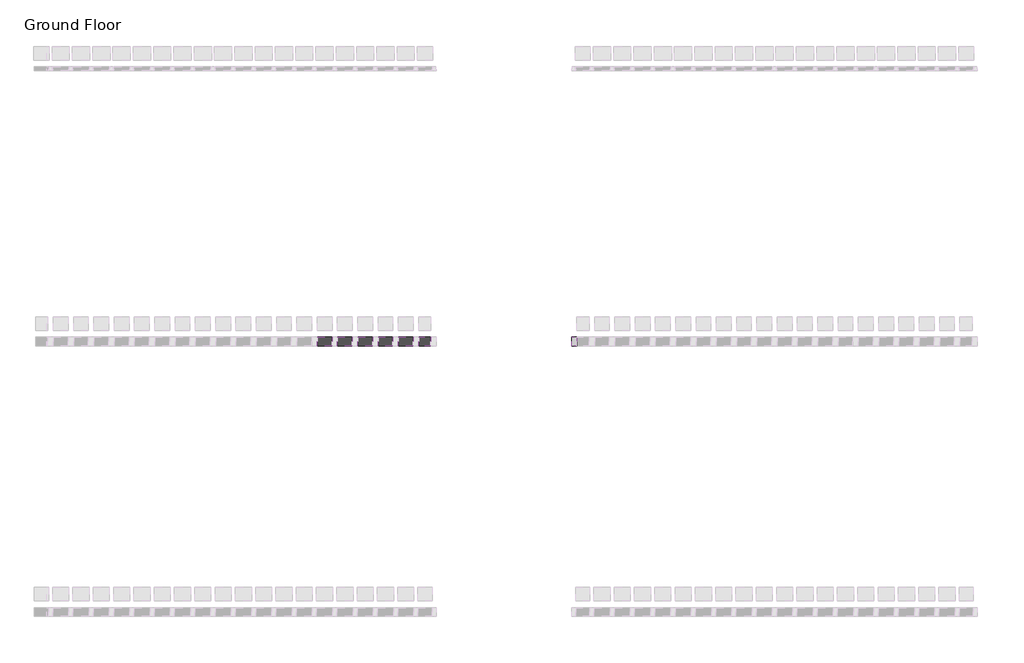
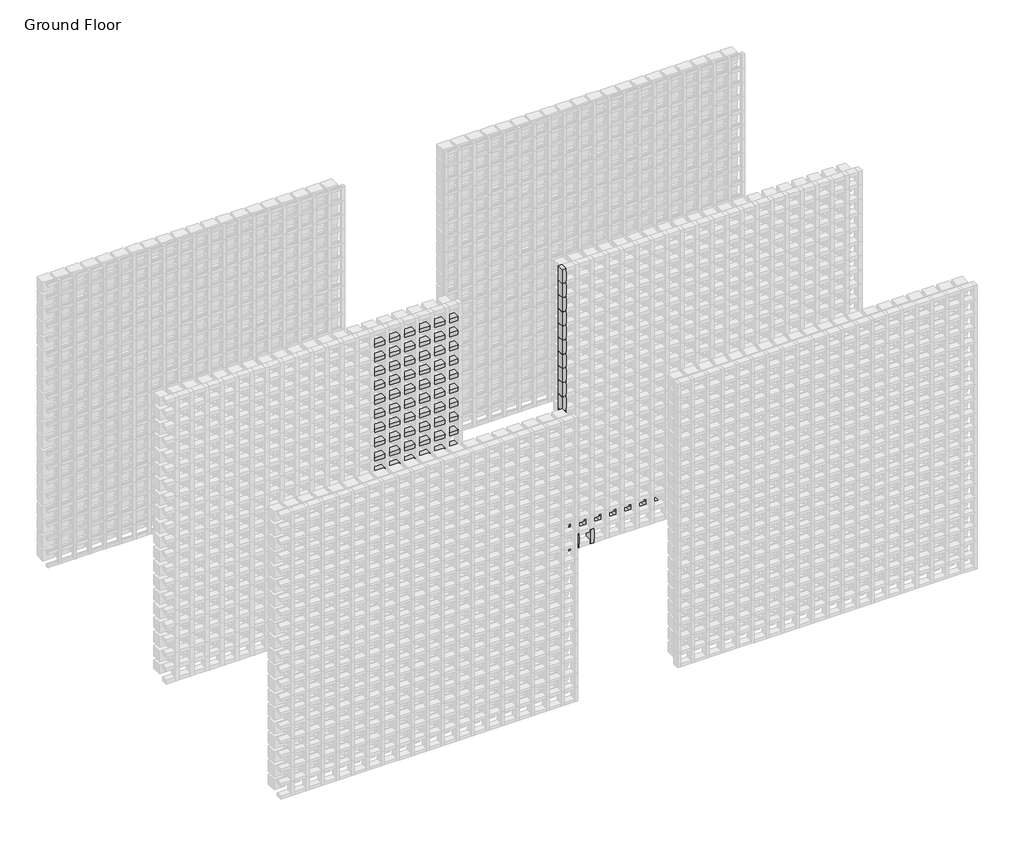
# One storey, part 143 of 350: 136 members, 7 plates.
"""IFC4 building model written with IfcOpenShell, lengths in millimetres."""

from ifc_helpers import new_model, si_unit, origin, place, context, project, spatial, transform, mapped, element, save
from components import rectangular_mullion_0b6a8654, rectangular_mullion_97e353d0, rectangular_mullion_655930e9, rectangular_mullion_141bfd94, rectangular_mullion_948b1c1d, empty_system_panel_empty_e4510abc, empty_system_panel_empty_1faefc6a

model = new_model("IFC4")

# Units and contexts
model_context = context("Model", 3, world=origin())
ifc_project = project(units=[si_unit("LENGTHUNIT", "METRE", prefix="MILLI")], contexts=[model_context])

# Site, building, storey
site = spatial("IfcSite", under=ifc_project)
building = spatial("IfcBuilding", under=site)
storey = spatial("IfcBuildingStorey", under=building, Name="Ground Floor", Elevation=0.0)

# Members
placement = place(None, origin())
rectangular_mullion_shape = rectangular_mullion_0b6a8654(model_context)
element("IfcMember", 1, ObjectType="Rectangular Mullion : Batten_Timber_Modinex_Austratus_Grid_Fascia_40x65_Hemlock", at=placement, inside=storey, context=model_context, shape_type="MappedRepresentation", body=[
    mapped(rectangular_mullion_shape, transform((12876.4361639, 40968.2978302, 150.0), x_axis=(0.0, 0.0, 1.0), y_axis=(0.0, -1.0, 0.0), z_axis=(1.0, 0.0, 0.0))),
])
element("IfcMember", 2, ObjectType="Rectangular Mullion : Batten_Timber_Modinex_Austratus_Grid_Fascia_40x65_Hemlock", at=placement, inside=storey, context=model_context, shape_type="MappedRepresentation", body=[
    mapped(rectangular_mullion_shape, transform((12876.4361639, 40968.2978302, 300.0), x_axis=(0.0, 0.0, 1.0), y_axis=(0.0, -1.0, 0.0), z_axis=(1.0, 0.0, 0.0))),
])
element("IfcMember", 3, ObjectType="Rectangular Mullion : Batten_Timber_Modinex_Austratus_Grid_Fascia_40x65_Hemlock", at=placement, inside=storey, context=model_context, shape_type="MappedRepresentation", body=[
    mapped(rectangular_mullion_shape, transform((12876.4361639, 40968.2978302, 450.0), x_axis=(0.0, 0.0, 1.0), y_axis=(0.0, -1.0, 0.0), z_axis=(1.0, 0.0, 0.0))),
])
element("IfcMember", 4, ObjectType="Rectangular Mullion : Batten_Timber_Modinex_Austratus_Grid_Fascia_40x65_Hemlock", at=placement, inside=storey, context=model_context, shape_type="MappedRepresentation", body=[
    mapped(rectangular_mullion_shape, transform((12876.4361639, 40968.2978302, 600.0), x_axis=(0.0, 0.0, 1.0), y_axis=(0.0, -1.0, 0.0), z_axis=(1.0, 0.0, 0.0))),
])
element("IfcMember", 5, ObjectType="Rectangular Mullion : Batten_Timber_Modinex_Austratus_Grid_Fascia_40x65_Hemlock", at=placement, inside=storey, context=model_context, shape_type="MappedRepresentation", body=[
    mapped(rectangular_mullion_shape, transform((12876.4361639, 40968.2978302, 750.0), x_axis=(0.0, 0.0, 1.0), y_axis=(0.0, -1.0, 0.0), z_axis=(1.0, 0.0, 0.0))),
])
element("IfcMember", 6, ObjectType="Rectangular Mullion : Batten_Timber_Modinex_Austratus_Grid_Fascia_40x65_Hemlock", at=placement, inside=storey, context=model_context, shape_type="MappedRepresentation", body=[
    mapped(rectangular_mullion_shape, transform((12876.4361639, 40968.2978302, 900.0), x_axis=(0.0, 0.0, 1.0), y_axis=(0.0, -1.0, 0.0), z_axis=(1.0, 0.0, 0.0))),
])
element("IfcMember", 7, ObjectType="Rectangular Mullion : Batten_Timber_Modinex_Austratus_Grid_Fascia_40x65_Hemlock", at=placement, inside=storey, context=model_context, shape_type="MappedRepresentation", body=[
    mapped(rectangular_mullion_shape, transform((12876.4361639, 40968.2978302, 1050.0), x_axis=(0.0, 0.0, 1.0), y_axis=(0.0, -1.0, 0.0), z_axis=(1.0, 0.0, 0.0))),
])
element("IfcMember", 8, ObjectType="Rectangular Mullion : Batten_Timber_Modinex_Austratus_Grid_Fascia_40x65_Hemlock", at=placement, inside=storey, context=model_context, shape_type="MappedRepresentation", body=[
    mapped(rectangular_mullion_shape, transform((12876.4361639, 40968.2978302, 1200.0), x_axis=(0.0, 0.0, 1.0), y_axis=(0.0, -1.0, 0.0), z_axis=(1.0, 0.0, 0.0))),
])
element("IfcMember", 9, ObjectType="Rectangular Mullion : Batten_Timber_Modinex_Austratus_Grid_Fascia_40x65_Hemlock", at=placement, inside=storey, context=model_context, shape_type="MappedRepresentation", body=[
    mapped(rectangular_mullion_shape, transform((12876.4361639, 40968.2978302, 1350.0), x_axis=(0.0, 0.0, 1.0), y_axis=(0.0, -1.0, 0.0), z_axis=(1.0, 0.0, 0.0))),
])
element("IfcMember", 10, ObjectType="Rectangular Mullion : Batten_Timber_Modinex_Austratus_Grid_Fascia_40x65_Hemlock", at=placement, inside=storey, context=model_context, shape_type="MappedRepresentation", body=[
    mapped(rectangular_mullion_shape, transform((12876.4361639, 40968.2978302, 1500.0), x_axis=(0.0, 0.0, 1.0), y_axis=(0.0, -1.0, 0.0), z_axis=(1.0, 0.0, 0.0))),
])
element("IfcMember", 11, ObjectType="Rectangular Mullion : Batten_Timber_Modinex_Austratus_Grid_Fascia_40x65_Hemlock", at=placement, inside=storey, context=model_context, shape_type="MappedRepresentation", body=[
    mapped(rectangular_mullion_shape, transform((12876.4361639, 40968.2978302, 1650.0), x_axis=(0.0, 0.0, 1.0), y_axis=(0.0, -1.0, 0.0), z_axis=(1.0, 0.0, 0.0))),
])
element("IfcMember", 12, ObjectType="Rectangular Mullion : Batten_Timber_Modinex_Austratus_Grid_Fascia_40x65_Hemlock", at=placement, inside=storey, context=model_context, shape_type="MappedRepresentation", body=[
    mapped(rectangular_mullion_shape, transform((12876.4361639, 40968.2978302, 1800.0), x_axis=(0.0, 0.0, 1.0), y_axis=(0.0, -1.0, 0.0), z_axis=(1.0, 0.0, 0.0))),
])
element("IfcMember", 13, ObjectType="Rectangular Mullion : Batten_Timber_Modinex_Austratus_Grid_Fascia_40x65_Hemlock", at=placement, inside=storey, context=model_context, shape_type="MappedRepresentation", body=[
    mapped(rectangular_mullion_shape, transform((12876.4361639, 40968.2978302, 1950.0), x_axis=(0.0, 0.0, 1.0), y_axis=(0.0, -1.0, 0.0), z_axis=(1.0, 0.0, 0.0))),
])
element("IfcMember", 14, ObjectType="Rectangular Mullion : Batten_Timber_Modinex_Austratus_Grid_Fascia_40x65_Hemlock", at=placement, inside=storey, context=model_context, shape_type="MappedRepresentation", body=[
    mapped(rectangular_mullion_shape, transform((12876.4361639, 40968.2978302, 2100.0), x_axis=(0.0, 0.0, 1.0), y_axis=(0.0, -1.0, 0.0), z_axis=(1.0, 0.0, 0.0))),
])
element("IfcMember", 15, ObjectType="Rectangular Mullion : Batten_Timber_Modinex_Austratus_Grid_Fascia_40x65_Hemlock", at=placement, inside=storey, context=model_context, shape_type="MappedRepresentation", body=[
    mapped(rectangular_mullion_shape, transform((12876.4361639, 40968.2978302, 2250.0), x_axis=(0.0, 0.0, 1.0), y_axis=(0.0, -1.0, 0.0), z_axis=(1.0, 0.0, 0.0))),
])
element("IfcMember", 16, ObjectType="Rectangular Mullion : Batten_Timber_Modinex_Austratus_Grid_Fascia_40x65_Hemlock", at=placement, inside=storey, context=model_context, shape_type="MappedRepresentation", body=[
    mapped(rectangular_mullion_shape, transform((12876.4361639, 40968.2978302, 2400.0), x_axis=(0.0, 0.0, 1.0), y_axis=(0.0, -1.0, 0.0), z_axis=(1.0, 0.0, 0.0))),
])
element("IfcMember", 17, ObjectType="Rectangular Mullion : Batten_Timber_Modinex_Austratus_Grid_Fascia_40x65_Hemlock", at=placement, inside=storey, context=model_context, shape_type="MappedRepresentation", body=[
    mapped(rectangular_mullion_shape, transform((12876.4361639, 40968.2978302, 2550.0), x_axis=(0.0, 0.0, 1.0), y_axis=(0.0, -1.0, 0.0), z_axis=(1.0, 0.0, 0.0))),
])
element("IfcMember", 18, ObjectType="Rectangular Mullion : Batten_Timber_Modinex_Austratus_Grid_Fascia_40x65_Hemlock", at=placement, inside=storey, context=model_context, shape_type="MappedRepresentation", body=[
    mapped(rectangular_mullion_shape, transform((12876.4361639, 40968.2978302, 2700.0), x_axis=(0.0, 0.0, 1.0), y_axis=(0.0, -1.0, 0.0), z_axis=(1.0, 0.0, 0.0))),
])
element("IfcMember", 19, ObjectType="Rectangular Mullion : Batten_Timber_Modinex_Austratus_Grid_Fascia_40x65_Hemlock", at=placement, inside=storey, context=model_context, shape_type="MappedRepresentation", body=[
    mapped(rectangular_mullion_shape, transform((12876.4361639, 40968.2978302, 2850.0), x_axis=(0.0, 0.0, 1.0), y_axis=(0.0, -1.0, 0.0), z_axis=(1.0, 0.0, 0.0))),
])
rectangular_mullion_2_shape = rectangular_mullion_97e353d0(model_context)
element("IfcMember", 20, ObjectType="Rectangular Mullion : Batten_Timber_Modinex_Austratus_Grid_Fascia_40x65_Hemlock", at=placement, inside=storey, context=model_context, shape_type="MappedRepresentation", body=[
    mapped(rectangular_mullion_2_shape, transform((12296.4361642, 40968.2978302, 150.0), x_axis=(0.0, 0.0, 1.0), y_axis=(0.0, -1.0, 0.0), z_axis=(1.0, 0.0, 0.0))),
])
element("IfcMember", 21, ObjectType="Rectangular Mullion : Batten_Timber_Modinex_Austratus_Grid_Fascia_40x65_Hemlock", at=placement, inside=storey, context=model_context, shape_type="MappedRepresentation", body=[
    mapped(rectangular_mullion_2_shape, transform((12446.4361642, 40968.2978302, 150.0), x_axis=(0.0, 0.0, 1.0), y_axis=(0.0, -1.0, 0.0), z_axis=(1.0, 0.0, 0.0))),
])
element("IfcMember", 22, ObjectType="Rectangular Mullion : Batten_Timber_Modinex_Austratus_Grid_Fascia_40x65_Hemlock", at=placement, inside=storey, context=model_context, shape_type="MappedRepresentation", body=[
    mapped(rectangular_mullion_2_shape, transform((12596.4361642, 40968.2978302, 150.0), x_axis=(0.0, 0.0, 1.0), y_axis=(0.0, -1.0, 0.0), z_axis=(1.0, 0.0, 0.0))),
])
element("IfcMember", 23, ObjectType="Rectangular Mullion : Batten_Timber_Modinex_Austratus_Grid_Fascia_40x65_Hemlock", at=placement, inside=storey, context=model_context, shape_type="MappedRepresentation", body=[
    mapped(rectangular_mullion_2_shape, transform((12746.4361642, 40968.2978302, 150.0), x_axis=(0.0, 0.0, 1.0), y_axis=(0.0, -1.0, 0.0), z_axis=(1.0, 0.0, 0.0))),
])
element("IfcMember", 24, ObjectType="Rectangular Mullion : Batten_Timber_Modinex_Austratus_Grid_Fascia_40x65_Hemlock", at=placement, inside=storey, context=model_context, shape_type="MappedRepresentation", body=[
    mapped(rectangular_mullion_2_shape, transform((12146.4361642, 40968.2978302, 300.0), x_axis=(0.0, 0.0, 1.0), y_axis=(0.0, -1.0, 0.0), z_axis=(1.0, 0.0, 0.0))),
])
element("IfcMember", 25, ObjectType="Rectangular Mullion : Batten_Timber_Modinex_Austratus_Grid_Fascia_40x65_Hemlock", at=placement, inside=storey, context=model_context, shape_type="MappedRepresentation", body=[
    mapped(rectangular_mullion_2_shape, transform((12296.4361642, 40968.2978302, 300.0), x_axis=(0.0, 0.0, 1.0), y_axis=(0.0, -1.0, 0.0), z_axis=(1.0, 0.0, 0.0))),
])
element("IfcMember", 26, ObjectType="Rectangular Mullion : Batten_Timber_Modinex_Austratus_Grid_Fascia_40x65_Hemlock", at=placement, inside=storey, context=model_context, shape_type="MappedRepresentation", body=[
    mapped(rectangular_mullion_2_shape, transform((12446.4361642, 40968.2978302, 300.0), x_axis=(0.0, 0.0, 1.0), y_axis=(0.0, -1.0, 0.0), z_axis=(1.0, 0.0, 0.0))),
])
element("IfcMember", 27, ObjectType="Rectangular Mullion : Batten_Timber_Modinex_Austratus_Grid_Fascia_40x65_Hemlock", at=placement, inside=storey, context=model_context, shape_type="MappedRepresentation", body=[
    mapped(rectangular_mullion_2_shape, transform((12596.4361642, 40968.2978302, 300.0), x_axis=(0.0, 0.0, 1.0), y_axis=(0.0, -1.0, 0.0), z_axis=(1.0, 0.0, 0.0))),
])
element("IfcMember", 28, ObjectType="Rectangular Mullion : Batten_Timber_Modinex_Austratus_Grid_Fascia_40x65_Hemlock", at=placement, inside=storey, context=model_context, shape_type="MappedRepresentation", body=[
    mapped(rectangular_mullion_2_shape, transform((12746.4361642, 40968.2978302, 300.0), x_axis=(0.0, 0.0, 1.0), y_axis=(0.0, -1.0, 0.0), z_axis=(1.0, 0.0, 0.0))),
])
element("IfcMember", 29, ObjectType="Rectangular Mullion : Batten_Timber_Modinex_Austratus_Grid_Fascia_40x65_Hemlock", at=placement, inside=storey, context=model_context, shape_type="MappedRepresentation", body=[
    mapped(rectangular_mullion_2_shape, transform((12146.4361642, 40968.2978302, 450.0), x_axis=(0.0, 0.0, 1.0), y_axis=(0.0, -1.0, 0.0), z_axis=(1.0, 0.0, 0.0))),
])
element("IfcMember", 30, ObjectType="Rectangular Mullion : Batten_Timber_Modinex_Austratus_Grid_Fascia_40x65_Hemlock", at=placement, inside=storey, context=model_context, shape_type="MappedRepresentation", body=[
    mapped(rectangular_mullion_2_shape, transform((12296.4361642, 40968.2978302, 450.0), x_axis=(0.0, 0.0, 1.0), y_axis=(0.0, -1.0, 0.0), z_axis=(1.0, 0.0, 0.0))),
])
element("IfcMember", 31, ObjectType="Rectangular Mullion : Batten_Timber_Modinex_Austratus_Grid_Fascia_40x65_Hemlock", at=placement, inside=storey, context=model_context, shape_type="MappedRepresentation", body=[
    mapped(rectangular_mullion_2_shape, transform((12446.4361642, 40968.2978302, 450.0), x_axis=(0.0, 0.0, 1.0), y_axis=(0.0, -1.0, 0.0), z_axis=(1.0, 0.0, 0.0))),
])
element("IfcMember", 32, ObjectType="Rectangular Mullion : Batten_Timber_Modinex_Austratus_Grid_Fascia_40x65_Hemlock", at=placement, inside=storey, context=model_context, shape_type="MappedRepresentation", body=[
    mapped(rectangular_mullion_2_shape, transform((12596.4361642, 40968.2978302, 450.0), x_axis=(0.0, 0.0, 1.0), y_axis=(0.0, -1.0, 0.0), z_axis=(1.0, 0.0, 0.0))),
])
element("IfcMember", 33, ObjectType="Rectangular Mullion : Batten_Timber_Modinex_Austratus_Grid_Fascia_40x65_Hemlock", at=placement, inside=storey, context=model_context, shape_type="MappedRepresentation", body=[
    mapped(rectangular_mullion_2_shape, transform((12746.4361642, 40968.2978302, 450.0), x_axis=(0.0, 0.0, 1.0), y_axis=(0.0, -1.0, 0.0), z_axis=(1.0, 0.0, 0.0))),
])
element("IfcMember", 34, ObjectType="Rectangular Mullion : Batten_Timber_Modinex_Austratus_Grid_Fascia_40x65_Hemlock", at=placement, inside=storey, context=model_context, shape_type="MappedRepresentation", body=[
    mapped(rectangular_mullion_2_shape, transform((12146.4361642, 40968.2978302, 600.0), x_axis=(0.0, 0.0, 1.0), y_axis=(0.0, -1.0, 0.0), z_axis=(1.0, 0.0, 0.0))),
])
element("IfcMember", 35, ObjectType="Rectangular Mullion : Batten_Timber_Modinex_Austratus_Grid_Fascia_40x65_Hemlock", at=placement, inside=storey, context=model_context, shape_type="MappedRepresentation", body=[
    mapped(rectangular_mullion_2_shape, transform((12296.4361642, 40968.2978302, 600.0), x_axis=(0.0, 0.0, 1.0), y_axis=(0.0, -1.0, 0.0), z_axis=(1.0, 0.0, 0.0))),
])
element("IfcMember", 36, ObjectType="Rectangular Mullion : Batten_Timber_Modinex_Austratus_Grid_Fascia_40x65_Hemlock", at=placement, inside=storey, context=model_context, shape_type="MappedRepresentation", body=[
    mapped(rectangular_mullion_2_shape, transform((12446.4361642, 40968.2978302, 600.0), x_axis=(0.0, 0.0, 1.0), y_axis=(0.0, -1.0, 0.0), z_axis=(1.0, 0.0, 0.0))),
])
element("IfcMember", 37, ObjectType="Rectangular Mullion : Batten_Timber_Modinex_Austratus_Grid_Fascia_40x65_Hemlock", at=placement, inside=storey, context=model_context, shape_type="MappedRepresentation", body=[
    mapped(rectangular_mullion_2_shape, transform((12596.4361642, 40968.2978302, 600.0), x_axis=(0.0, 0.0, 1.0), y_axis=(0.0, -1.0, 0.0), z_axis=(1.0, 0.0, 0.0))),
])
element("IfcMember", 38, ObjectType="Rectangular Mullion : Batten_Timber_Modinex_Austratus_Grid_Fascia_40x65_Hemlock", at=placement, inside=storey, context=model_context, shape_type="MappedRepresentation", body=[
    mapped(rectangular_mullion_2_shape, transform((12746.4361642, 40968.2978302, 600.0), x_axis=(0.0, 0.0, 1.0), y_axis=(0.0, -1.0, 0.0), z_axis=(1.0, 0.0, 0.0))),
])
element("IfcMember", 39, ObjectType="Rectangular Mullion : Batten_Timber_Modinex_Austratus_Grid_Fascia_40x65_Hemlock", at=placement, inside=storey, context=model_context, shape_type="MappedRepresentation", body=[
    mapped(rectangular_mullion_2_shape, transform((12146.4361642, 40968.2978302, 750.0), x_axis=(0.0, 0.0, 1.0), y_axis=(0.0, -1.0, 0.0), z_axis=(1.0, 0.0, 0.0))),
])
element("IfcMember", 40, ObjectType="Rectangular Mullion : Batten_Timber_Modinex_Austratus_Grid_Fascia_40x65_Hemlock", at=placement, inside=storey, context=model_context, shape_type="MappedRepresentation", body=[
    mapped(rectangular_mullion_2_shape, transform((12296.4361642, 40968.2978302, 750.0), x_axis=(0.0, 0.0, 1.0), y_axis=(0.0, -1.0, 0.0), z_axis=(1.0, 0.0, 0.0))),
])
element("IfcMember", 41, ObjectType="Rectangular Mullion : Batten_Timber_Modinex_Austratus_Grid_Fascia_40x65_Hemlock", at=placement, inside=storey, context=model_context, shape_type="MappedRepresentation", body=[
    mapped(rectangular_mullion_2_shape, transform((12446.4361642, 40968.2978302, 750.0), x_axis=(0.0, 0.0, 1.0), y_axis=(0.0, -1.0, 0.0), z_axis=(1.0, 0.0, 0.0))),
])
element("IfcMember", 42, ObjectType="Rectangular Mullion : Batten_Timber_Modinex_Austratus_Grid_Fascia_40x65_Hemlock", at=placement, inside=storey, context=model_context, shape_type="MappedRepresentation", body=[
    mapped(rectangular_mullion_2_shape, transform((12596.4361642, 40968.2978302, 750.0), x_axis=(0.0, 0.0, 1.0), y_axis=(0.0, -1.0, 0.0), z_axis=(1.0, 0.0, 0.0))),
])
element("IfcMember", 43, ObjectType="Rectangular Mullion : Batten_Timber_Modinex_Austratus_Grid_Fascia_40x65_Hemlock", at=placement, inside=storey, context=model_context, shape_type="MappedRepresentation", body=[
    mapped(rectangular_mullion_2_shape, transform((12746.4361642, 40968.2978302, 750.0), x_axis=(0.0, 0.0, 1.0), y_axis=(0.0, -1.0, 0.0), z_axis=(1.0, 0.0, 0.0))),
])
element("IfcMember", 44, ObjectType="Rectangular Mullion : Batten_Timber_Modinex_Austratus_Grid_Fascia_40x65_Hemlock", at=placement, inside=storey, context=model_context, shape_type="MappedRepresentation", body=[
    mapped(rectangular_mullion_2_shape, transform((12146.4361642, 40968.2978302, 900.0), x_axis=(0.0, 0.0, 1.0), y_axis=(0.0, -1.0, 0.0), z_axis=(1.0, 0.0, 0.0))),
])
element("IfcMember", 45, ObjectType="Rectangular Mullion : Batten_Timber_Modinex_Austratus_Grid_Fascia_40x65_Hemlock", at=placement, inside=storey, context=model_context, shape_type="MappedRepresentation", body=[
    mapped(rectangular_mullion_2_shape, transform((12296.4361642, 40968.2978302, 900.0), x_axis=(0.0, 0.0, 1.0), y_axis=(0.0, -1.0, 0.0), z_axis=(1.0, 0.0, 0.0))),
])
element("IfcMember", 46, ObjectType="Rectangular Mullion : Batten_Timber_Modinex_Austratus_Grid_Fascia_40x65_Hemlock", at=placement, inside=storey, context=model_context, shape_type="MappedRepresentation", body=[
    mapped(rectangular_mullion_2_shape, transform((12446.4361642, 40968.2978302, 900.0), x_axis=(0.0, 0.0, 1.0), y_axis=(0.0, -1.0, 0.0), z_axis=(1.0, 0.0, 0.0))),
])
element("IfcMember", 47, ObjectType="Rectangular Mullion : Batten_Timber_Modinex_Austratus_Grid_Fascia_40x65_Hemlock", at=placement, inside=storey, context=model_context, shape_type="MappedRepresentation", body=[
    mapped(rectangular_mullion_2_shape, transform((12596.4361642, 40968.2978302, 900.0), x_axis=(0.0, 0.0, 1.0), y_axis=(0.0, -1.0, 0.0), z_axis=(1.0, 0.0, 0.0))),
])
element("IfcMember", 48, ObjectType="Rectangular Mullion : Batten_Timber_Modinex_Austratus_Grid_Fascia_40x65_Hemlock", at=placement, inside=storey, context=model_context, shape_type="MappedRepresentation", body=[
    mapped(rectangular_mullion_2_shape, transform((12746.4361642, 40968.2978302, 900.0), x_axis=(0.0, 0.0, 1.0), y_axis=(0.0, -1.0, 0.0), z_axis=(1.0, 0.0, 0.0))),
])
element("IfcMember", 49, ObjectType="Rectangular Mullion : Batten_Timber_Modinex_Austratus_Grid_Fascia_40x65_Hemlock", at=placement, inside=storey, context=model_context, shape_type="MappedRepresentation", body=[
    mapped(rectangular_mullion_2_shape, transform((12146.4361642, 40968.2978302, 1050.0), x_axis=(0.0, 0.0, 1.0), y_axis=(0.0, -1.0, 0.0), z_axis=(1.0, 0.0, 0.0))),
])
element("IfcMember", 50, ObjectType="Rectangular Mullion : Batten_Timber_Modinex_Austratus_Grid_Fascia_40x65_Hemlock", at=placement, inside=storey, context=model_context, shape_type="MappedRepresentation", body=[
    mapped(rectangular_mullion_2_shape, transform((12296.4361642, 40968.2978302, 1050.0), x_axis=(0.0, 0.0, 1.0), y_axis=(0.0, -1.0, 0.0), z_axis=(1.0, 0.0, 0.0))),
])
element("IfcMember", 51, ObjectType="Rectangular Mullion : Batten_Timber_Modinex_Austratus_Grid_Fascia_40x65_Hemlock", at=placement, inside=storey, context=model_context, shape_type="MappedRepresentation", body=[
    mapped(rectangular_mullion_2_shape, transform((12446.4361642, 40968.2978302, 1050.0), x_axis=(0.0, 0.0, 1.0), y_axis=(0.0, -1.0, 0.0), z_axis=(1.0, 0.0, 0.0))),
])
element("IfcMember", 52, ObjectType="Rectangular Mullion : Batten_Timber_Modinex_Austratus_Grid_Fascia_40x65_Hemlock", at=placement, inside=storey, context=model_context, shape_type="MappedRepresentation", body=[
    mapped(rectangular_mullion_2_shape, transform((12596.4361642, 40968.2978302, 1050.0), x_axis=(0.0, 0.0, 1.0), y_axis=(0.0, -1.0, 0.0), z_axis=(1.0, 0.0, 0.0))),
])
element("IfcMember", 53, ObjectType="Rectangular Mullion : Batten_Timber_Modinex_Austratus_Grid_Fascia_40x65_Hemlock", at=placement, inside=storey, context=model_context, shape_type="MappedRepresentation", body=[
    mapped(rectangular_mullion_2_shape, transform((12746.4361642, 40968.2978302, 1050.0), x_axis=(0.0, 0.0, 1.0), y_axis=(0.0, -1.0, 0.0), z_axis=(1.0, 0.0, 0.0))),
])
element("IfcMember", 54, ObjectType="Rectangular Mullion : Batten_Timber_Modinex_Austratus_Grid_Fascia_40x65_Hemlock", at=placement, inside=storey, context=model_context, shape_type="MappedRepresentation", body=[
    mapped(rectangular_mullion_2_shape, transform((12146.4361642, 40968.2978302, 1200.0), x_axis=(0.0, 0.0, 1.0), y_axis=(0.0, -1.0, 0.0), z_axis=(1.0, 0.0, 0.0))),
])
element("IfcMember", 55, ObjectType="Rectangular Mullion : Batten_Timber_Modinex_Austratus_Grid_Fascia_40x65_Hemlock", at=placement, inside=storey, context=model_context, shape_type="MappedRepresentation", body=[
    mapped(rectangular_mullion_2_shape, transform((12296.4361642, 40968.2978302, 1200.0), x_axis=(0.0, 0.0, 1.0), y_axis=(0.0, -1.0, 0.0), z_axis=(1.0, 0.0, 0.0))),
])
element("IfcMember", 56, ObjectType="Rectangular Mullion : Batten_Timber_Modinex_Austratus_Grid_Fascia_40x65_Hemlock", at=placement, inside=storey, context=model_context, shape_type="MappedRepresentation", body=[
    mapped(rectangular_mullion_2_shape, transform((12446.4361642, 40968.2978302, 1200.0), x_axis=(0.0, 0.0, 1.0), y_axis=(0.0, -1.0, 0.0), z_axis=(1.0, 0.0, 0.0))),
])
element("IfcMember", 57, ObjectType="Rectangular Mullion : Batten_Timber_Modinex_Austratus_Grid_Fascia_40x65_Hemlock", at=placement, inside=storey, context=model_context, shape_type="MappedRepresentation", body=[
    mapped(rectangular_mullion_2_shape, transform((12596.4361642, 40968.2978302, 1200.0), x_axis=(0.0, 0.0, 1.0), y_axis=(0.0, -1.0, 0.0), z_axis=(1.0, 0.0, 0.0))),
])
element("IfcMember", 58, ObjectType="Rectangular Mullion : Batten_Timber_Modinex_Austratus_Grid_Fascia_40x65_Hemlock", at=placement, inside=storey, context=model_context, shape_type="MappedRepresentation", body=[
    mapped(rectangular_mullion_2_shape, transform((12746.4361642, 40968.2978302, 1200.0), x_axis=(0.0, 0.0, 1.0), y_axis=(0.0, -1.0, 0.0), z_axis=(1.0, 0.0, 0.0))),
])
element("IfcMember", 59, ObjectType="Rectangular Mullion : Batten_Timber_Modinex_Austratus_Grid_Fascia_40x65_Hemlock", at=placement, inside=storey, context=model_context, shape_type="MappedRepresentation", body=[
    mapped(rectangular_mullion_2_shape, transform((12146.4361642, 40968.2978302, 1350.0), x_axis=(0.0, 0.0, 1.0), y_axis=(0.0, -1.0, 0.0), z_axis=(1.0, 0.0, 0.0))),
])
element("IfcMember", 60, ObjectType="Rectangular Mullion : Batten_Timber_Modinex_Austratus_Grid_Fascia_40x65_Hemlock", at=placement, inside=storey, context=model_context, shape_type="MappedRepresentation", body=[
    mapped(rectangular_mullion_2_shape, transform((12296.4361642, 40968.2978302, 1350.0), x_axis=(0.0, 0.0, 1.0), y_axis=(0.0, -1.0, 0.0), z_axis=(1.0, 0.0, 0.0))),
])
element("IfcMember", 61, ObjectType="Rectangular Mullion : Batten_Timber_Modinex_Austratus_Grid_Fascia_40x65_Hemlock", at=placement, inside=storey, context=model_context, shape_type="MappedRepresentation", body=[
    mapped(rectangular_mullion_2_shape, transform((12446.4361642, 40968.2978302, 1350.0), x_axis=(0.0, 0.0, 1.0), y_axis=(0.0, -1.0, 0.0), z_axis=(1.0, 0.0, 0.0))),
])
element("IfcMember", 62, ObjectType="Rectangular Mullion : Batten_Timber_Modinex_Austratus_Grid_Fascia_40x65_Hemlock", at=placement, inside=storey, context=model_context, shape_type="MappedRepresentation", body=[
    mapped(rectangular_mullion_2_shape, transform((12596.4361642, 40968.2978302, 1350.0), x_axis=(0.0, 0.0, 1.0), y_axis=(0.0, -1.0, 0.0), z_axis=(1.0, 0.0, 0.0))),
])
element("IfcMember", 63, ObjectType="Rectangular Mullion : Batten_Timber_Modinex_Austratus_Grid_Fascia_40x65_Hemlock", at=placement, inside=storey, context=model_context, shape_type="MappedRepresentation", body=[
    mapped(rectangular_mullion_2_shape, transform((12746.4361642, 40968.2978302, 1350.0), x_axis=(0.0, 0.0, 1.0), y_axis=(0.0, -1.0, 0.0), z_axis=(1.0, 0.0, 0.0))),
])
element("IfcMember", 64, ObjectType="Rectangular Mullion : Batten_Timber_Modinex_Austratus_Grid_Fascia_40x65_Hemlock", at=placement, inside=storey, context=model_context, shape_type="MappedRepresentation", body=[
    mapped(rectangular_mullion_2_shape, transform((12146.4361642, 40968.2978302, 1500.0), x_axis=(0.0, 0.0, 1.0), y_axis=(0.0, -1.0, 0.0), z_axis=(1.0, 0.0, 0.0))),
])
element("IfcMember", 65, ObjectType="Rectangular Mullion : Batten_Timber_Modinex_Austratus_Grid_Fascia_40x65_Hemlock", at=placement, inside=storey, context=model_context, shape_type="MappedRepresentation", body=[
    mapped(rectangular_mullion_2_shape, transform((12296.4361642, 40968.2978302, 1500.0), x_axis=(0.0, 0.0, 1.0), y_axis=(0.0, -1.0, 0.0), z_axis=(1.0, 0.0, 0.0))),
])
element("IfcMember", 66, ObjectType="Rectangular Mullion : Batten_Timber_Modinex_Austratus_Grid_Fascia_40x65_Hemlock", at=placement, inside=storey, context=model_context, shape_type="MappedRepresentation", body=[
    mapped(rectangular_mullion_2_shape, transform((12446.4361642, 40968.2978302, 1500.0), x_axis=(0.0, 0.0, 1.0), y_axis=(0.0, -1.0, 0.0), z_axis=(1.0, 0.0, 0.0))),
])
element("IfcMember", 67, ObjectType="Rectangular Mullion : Batten_Timber_Modinex_Austratus_Grid_Fascia_40x65_Hemlock", at=placement, inside=storey, context=model_context, shape_type="MappedRepresentation", body=[
    mapped(rectangular_mullion_2_shape, transform((12596.4361642, 40968.2978302, 1500.0), x_axis=(0.0, 0.0, 1.0), y_axis=(0.0, -1.0, 0.0), z_axis=(1.0, 0.0, 0.0))),
])
element("IfcMember", 68, ObjectType="Rectangular Mullion : Batten_Timber_Modinex_Austratus_Grid_Fascia_40x65_Hemlock", at=placement, inside=storey, context=model_context, shape_type="MappedRepresentation", body=[
    mapped(rectangular_mullion_2_shape, transform((12746.4361642, 40968.2978302, 1500.0), x_axis=(0.0, 0.0, 1.0), y_axis=(0.0, -1.0, 0.0), z_axis=(1.0, 0.0, 0.0))),
])
element("IfcMember", 69, ObjectType="Rectangular Mullion : Batten_Timber_Modinex_Austratus_Grid_Fascia_40x65_Hemlock", at=placement, inside=storey, context=model_context, shape_type="MappedRepresentation", body=[
    mapped(rectangular_mullion_2_shape, transform((12146.4361642, 40968.2978302, 1650.0), x_axis=(0.0, 0.0, 1.0), y_axis=(0.0, -1.0, 0.0), z_axis=(1.0, 0.0, 0.0))),
])
element("IfcMember", 70, ObjectType="Rectangular Mullion : Batten_Timber_Modinex_Austratus_Grid_Fascia_40x65_Hemlock", at=placement, inside=storey, context=model_context, shape_type="MappedRepresentation", body=[
    mapped(rectangular_mullion_2_shape, transform((12296.4361642, 40968.2978302, 1650.0), x_axis=(0.0, 0.0, 1.0), y_axis=(0.0, -1.0, 0.0), z_axis=(1.0, 0.0, 0.0))),
])
element("IfcMember", 71, ObjectType="Rectangular Mullion : Batten_Timber_Modinex_Austratus_Grid_Fascia_40x65_Hemlock", at=placement, inside=storey, context=model_context, shape_type="MappedRepresentation", body=[
    mapped(rectangular_mullion_2_shape, transform((12446.4361642, 40968.2978302, 1650.0), x_axis=(0.0, 0.0, 1.0), y_axis=(0.0, -1.0, 0.0), z_axis=(1.0, 0.0, 0.0))),
])
element("IfcMember", 72, ObjectType="Rectangular Mullion : Batten_Timber_Modinex_Austratus_Grid_Fascia_40x65_Hemlock", at=placement, inside=storey, context=model_context, shape_type="MappedRepresentation", body=[
    mapped(rectangular_mullion_2_shape, transform((12596.4361642, 40968.2978302, 1650.0), x_axis=(0.0, 0.0, 1.0), y_axis=(0.0, -1.0, 0.0), z_axis=(1.0, 0.0, 0.0))),
])
element("IfcMember", 73, ObjectType="Rectangular Mullion : Batten_Timber_Modinex_Austratus_Grid_Fascia_40x65_Hemlock", at=placement, inside=storey, context=model_context, shape_type="MappedRepresentation", body=[
    mapped(rectangular_mullion_2_shape, transform((12746.4361642, 40968.2978302, 1650.0), x_axis=(0.0, 0.0, 1.0), y_axis=(0.0, -1.0, 0.0), z_axis=(1.0, 0.0, 0.0))),
])
element("IfcMember", 74, ObjectType="Rectangular Mullion : Batten_Timber_Modinex_Austratus_Grid_Fascia_40x65_Hemlock", at=placement, inside=storey, context=model_context, shape_type="MappedRepresentation", body=[
    mapped(rectangular_mullion_2_shape, transform((12146.4361642, 40968.2978302, 1800.0), x_axis=(0.0, 0.0, 1.0), y_axis=(0.0, -1.0, 0.0), z_axis=(1.0, 0.0, 0.0))),
])
element("IfcMember", 75, ObjectType="Rectangular Mullion : Batten_Timber_Modinex_Austratus_Grid_Fascia_40x65_Hemlock", at=placement, inside=storey, context=model_context, shape_type="MappedRepresentation", body=[
    mapped(rectangular_mullion_2_shape, transform((12296.4361642, 40968.2978302, 1800.0), x_axis=(0.0, 0.0, 1.0), y_axis=(0.0, -1.0, 0.0), z_axis=(1.0, 0.0, 0.0))),
])
element("IfcMember", 76, ObjectType="Rectangular Mullion : Batten_Timber_Modinex_Austratus_Grid_Fascia_40x65_Hemlock", at=placement, inside=storey, context=model_context, shape_type="MappedRepresentation", body=[
    mapped(rectangular_mullion_2_shape, transform((12446.4361642, 40968.2978302, 1800.0), x_axis=(0.0, 0.0, 1.0), y_axis=(0.0, -1.0, 0.0), z_axis=(1.0, 0.0, 0.0))),
])
element("IfcMember", 77, ObjectType="Rectangular Mullion : Batten_Timber_Modinex_Austratus_Grid_Fascia_40x65_Hemlock", at=placement, inside=storey, context=model_context, shape_type="MappedRepresentation", body=[
    mapped(rectangular_mullion_2_shape, transform((12596.4361642, 40968.2978302, 1800.0), x_axis=(0.0, 0.0, 1.0), y_axis=(0.0, -1.0, 0.0), z_axis=(1.0, 0.0, 0.0))),
])
element("IfcMember", 78, ObjectType="Rectangular Mullion : Batten_Timber_Modinex_Austratus_Grid_Fascia_40x65_Hemlock", at=placement, inside=storey, context=model_context, shape_type="MappedRepresentation", body=[
    mapped(rectangular_mullion_2_shape, transform((12746.4361642, 40968.2978302, 1800.0), x_axis=(0.0, 0.0, 1.0), y_axis=(0.0, -1.0, 0.0), z_axis=(1.0, 0.0, 0.0))),
])
element("IfcMember", 79, ObjectType="Rectangular Mullion : Batten_Timber_Modinex_Austratus_Grid_Fascia_40x65_Hemlock", at=placement, inside=storey, context=model_context, shape_type="MappedRepresentation", body=[
    mapped(rectangular_mullion_2_shape, transform((12146.4361642, 40968.2978302, 1950.0), x_axis=(0.0, 0.0, 1.0), y_axis=(0.0, -1.0, 0.0), z_axis=(1.0, 0.0, 0.0))),
])
element("IfcMember", 80, ObjectType="Rectangular Mullion : Batten_Timber_Modinex_Austratus_Grid_Fascia_40x65_Hemlock", at=placement, inside=storey, context=model_context, shape_type="MappedRepresentation", body=[
    mapped(rectangular_mullion_2_shape, transform((12296.4361642, 40968.2978302, 1950.0), x_axis=(0.0, 0.0, 1.0), y_axis=(0.0, -1.0, 0.0), z_axis=(1.0, 0.0, 0.0))),
])
element("IfcMember", 81, ObjectType="Rectangular Mullion : Batten_Timber_Modinex_Austratus_Grid_Fascia_40x65_Hemlock", at=placement, inside=storey, context=model_context, shape_type="MappedRepresentation", body=[
    mapped(rectangular_mullion_2_shape, transform((12446.4361642, 40968.2978302, 1950.0), x_axis=(0.0, 0.0, 1.0), y_axis=(0.0, -1.0, 0.0), z_axis=(1.0, 0.0, 0.0))),
])
element("IfcMember", 82, ObjectType="Rectangular Mullion : Batten_Timber_Modinex_Austratus_Grid_Fascia_40x65_Hemlock", at=placement, inside=storey, context=model_context, shape_type="MappedRepresentation", body=[
    mapped(rectangular_mullion_2_shape, transform((12596.4361642, 40968.2978302, 1950.0), x_axis=(0.0, 0.0, 1.0), y_axis=(0.0, -1.0, 0.0), z_axis=(1.0, 0.0, 0.0))),
])
element("IfcMember", 83, ObjectType="Rectangular Mullion : Batten_Timber_Modinex_Austratus_Grid_Fascia_40x65_Hemlock", at=placement, inside=storey, context=model_context, shape_type="MappedRepresentation", body=[
    mapped(rectangular_mullion_2_shape, transform((12746.4361642, 40968.2978302, 1950.0), x_axis=(0.0, 0.0, 1.0), y_axis=(0.0, -1.0, 0.0), z_axis=(1.0, 0.0, 0.0))),
])
element("IfcMember", 84, ObjectType="Rectangular Mullion : Batten_Timber_Modinex_Austratus_Grid_Fascia_40x65_Hemlock", at=placement, inside=storey, context=model_context, shape_type="MappedRepresentation", body=[
    mapped(rectangular_mullion_2_shape, transform((12146.4361642, 40968.2978302, 2100.0), x_axis=(0.0, 0.0, 1.0), y_axis=(0.0, -1.0, 0.0), z_axis=(1.0, 0.0, 0.0))),
])
element("IfcMember", 85, ObjectType="Rectangular Mullion : Batten_Timber_Modinex_Austratus_Grid_Fascia_40x65_Hemlock", at=placement, inside=storey, context=model_context, shape_type="MappedRepresentation", body=[
    mapped(rectangular_mullion_2_shape, transform((12296.4361642, 40968.2978302, 2100.0), x_axis=(0.0, 0.0, 1.0), y_axis=(0.0, -1.0, 0.0), z_axis=(1.0, 0.0, 0.0))),
])
element("IfcMember", 86, ObjectType="Rectangular Mullion : Batten_Timber_Modinex_Austratus_Grid_Fascia_40x65_Hemlock", at=placement, inside=storey, context=model_context, shape_type="MappedRepresentation", body=[
    mapped(rectangular_mullion_2_shape, transform((12446.4361642, 40968.2978302, 2100.0), x_axis=(0.0, 0.0, 1.0), y_axis=(0.0, -1.0, 0.0), z_axis=(1.0, 0.0, 0.0))),
])
element("IfcMember", 87, ObjectType="Rectangular Mullion : Batten_Timber_Modinex_Austratus_Grid_Fascia_40x65_Hemlock", at=placement, inside=storey, context=model_context, shape_type="MappedRepresentation", body=[
    mapped(rectangular_mullion_2_shape, transform((12596.4361642, 40968.2978302, 2100.0), x_axis=(0.0, 0.0, 1.0), y_axis=(0.0, -1.0, 0.0), z_axis=(1.0, 0.0, 0.0))),
])
element("IfcMember", 88, ObjectType="Rectangular Mullion : Batten_Timber_Modinex_Austratus_Grid_Fascia_40x65_Hemlock", at=placement, inside=storey, context=model_context, shape_type="MappedRepresentation", body=[
    mapped(rectangular_mullion_2_shape, transform((12746.4361642, 40968.2978302, 2100.0), x_axis=(0.0, 0.0, 1.0), y_axis=(0.0, -1.0, 0.0), z_axis=(1.0, 0.0, 0.0))),
])
element("IfcMember", 89, ObjectType="Rectangular Mullion : Batten_Timber_Modinex_Austratus_Grid_Fascia_40x65_Hemlock", at=placement, inside=storey, context=model_context, shape_type="MappedRepresentation", body=[
    mapped(rectangular_mullion_2_shape, transform((12146.4361642, 40968.2978302, 2250.0), x_axis=(0.0, 0.0, 1.0), y_axis=(0.0, -1.0, 0.0), z_axis=(1.0, 0.0, 0.0))),
])
element("IfcMember", 90, ObjectType="Rectangular Mullion : Batten_Timber_Modinex_Austratus_Grid_Fascia_40x65_Hemlock", at=placement, inside=storey, context=model_context, shape_type="MappedRepresentation", body=[
    mapped(rectangular_mullion_2_shape, transform((12296.4361642, 40968.2978302, 2250.0), x_axis=(0.0, 0.0, 1.0), y_axis=(0.0, -1.0, 0.0), z_axis=(1.0, 0.0, 0.0))),
])
element("IfcMember", 91, ObjectType="Rectangular Mullion : Batten_Timber_Modinex_Austratus_Grid_Fascia_40x65_Hemlock", at=placement, inside=storey, context=model_context, shape_type="MappedRepresentation", body=[
    mapped(rectangular_mullion_2_shape, transform((12446.4361642, 40968.2978302, 2250.0), x_axis=(0.0, 0.0, 1.0), y_axis=(0.0, -1.0, 0.0), z_axis=(1.0, 0.0, 0.0))),
])
element("IfcMember", 92, ObjectType="Rectangular Mullion : Batten_Timber_Modinex_Austratus_Grid_Fascia_40x65_Hemlock", at=placement, inside=storey, context=model_context, shape_type="MappedRepresentation", body=[
    mapped(rectangular_mullion_2_shape, transform((12596.4361642, 40968.2978302, 2250.0), x_axis=(0.0, 0.0, 1.0), y_axis=(0.0, -1.0, 0.0), z_axis=(1.0, 0.0, 0.0))),
])
element("IfcMember", 93, ObjectType="Rectangular Mullion : Batten_Timber_Modinex_Austratus_Grid_Fascia_40x65_Hemlock", at=placement, inside=storey, context=model_context, shape_type="MappedRepresentation", body=[
    mapped(rectangular_mullion_2_shape, transform((12746.4361642, 40968.2978302, 2250.0), x_axis=(0.0, 0.0, 1.0), y_axis=(0.0, -1.0, 0.0), z_axis=(1.0, 0.0, 0.0))),
])
element("IfcMember", 94, ObjectType="Rectangular Mullion : Batten_Timber_Modinex_Austratus_Grid_Fascia_40x65_Hemlock", at=placement, inside=storey, context=model_context, shape_type="MappedRepresentation", body=[
    mapped(rectangular_mullion_2_shape, transform((12146.4361642, 40968.2978302, 2400.0), x_axis=(0.0, 0.0, 1.0), y_axis=(0.0, -1.0, 0.0), z_axis=(1.0, 0.0, 0.0))),
])
element("IfcMember", 95, ObjectType="Rectangular Mullion : Batten_Timber_Modinex_Austratus_Grid_Fascia_40x65_Hemlock", at=placement, inside=storey, context=model_context, shape_type="MappedRepresentation", body=[
    mapped(rectangular_mullion_2_shape, transform((12296.4361642, 40968.2978302, 2400.0), x_axis=(0.0, 0.0, 1.0), y_axis=(0.0, -1.0, 0.0), z_axis=(1.0, 0.0, 0.0))),
])
element("IfcMember", 96, ObjectType="Rectangular Mullion : Batten_Timber_Modinex_Austratus_Grid_Fascia_40x65_Hemlock", at=placement, inside=storey, context=model_context, shape_type="MappedRepresentation", body=[
    mapped(rectangular_mullion_2_shape, transform((12446.4361642, 40968.2978302, 2400.0), x_axis=(0.0, 0.0, 1.0), y_axis=(0.0, -1.0, 0.0), z_axis=(1.0, 0.0, 0.0))),
])
element("IfcMember", 97, ObjectType="Rectangular Mullion : Batten_Timber_Modinex_Austratus_Grid_Fascia_40x65_Hemlock", at=placement, inside=storey, context=model_context, shape_type="MappedRepresentation", body=[
    mapped(rectangular_mullion_2_shape, transform((12596.4361642, 40968.2978302, 2400.0), x_axis=(0.0, 0.0, 1.0), y_axis=(0.0, -1.0, 0.0), z_axis=(1.0, 0.0, 0.0))),
])
element("IfcMember", 98, ObjectType="Rectangular Mullion : Batten_Timber_Modinex_Austratus_Grid_Fascia_40x65_Hemlock", at=placement, inside=storey, context=model_context, shape_type="MappedRepresentation", body=[
    mapped(rectangular_mullion_2_shape, transform((12746.4361642, 40968.2978302, 2400.0), x_axis=(0.0, 0.0, 1.0), y_axis=(0.0, -1.0, 0.0), z_axis=(1.0, 0.0, 0.0))),
])
element("IfcMember", 99, ObjectType="Rectangular Mullion : Batten_Timber_Modinex_Austratus_Grid_Fascia_40x65_Hemlock", at=placement, inside=storey, context=model_context, shape_type="MappedRepresentation", body=[
    mapped(rectangular_mullion_2_shape, transform((12146.4361642, 40968.2978302, 2550.0), x_axis=(0.0, 0.0, 1.0), y_axis=(0.0, -1.0, 0.0), z_axis=(1.0, 0.0, 0.0))),
])
element("IfcMember", 100, ObjectType="Rectangular Mullion : Batten_Timber_Modinex_Austratus_Grid_Fascia_40x65_Hemlock", at=placement, inside=storey, context=model_context, shape_type="MappedRepresentation", body=[
    mapped(rectangular_mullion_2_shape, transform((12296.4361642, 40968.2978302, 2550.0), x_axis=(0.0, 0.0, 1.0), y_axis=(0.0, -1.0, 0.0), z_axis=(1.0, 0.0, 0.0))),
])
element("IfcMember", 101, ObjectType="Rectangular Mullion : Batten_Timber_Modinex_Austratus_Grid_Fascia_40x65_Hemlock", at=placement, inside=storey, context=model_context, shape_type="MappedRepresentation", body=[
    mapped(rectangular_mullion_2_shape, transform((12446.4361642, 40968.2978302, 2550.0), x_axis=(0.0, 0.0, 1.0), y_axis=(0.0, -1.0, 0.0), z_axis=(1.0, 0.0, 0.0))),
])
element("IfcMember", 102, ObjectType="Rectangular Mullion : Batten_Timber_Modinex_Austratus_Grid_Fascia_40x65_Hemlock", at=placement, inside=storey, context=model_context, shape_type="MappedRepresentation", body=[
    mapped(rectangular_mullion_2_shape, transform((12596.4361642, 40968.2978302, 2550.0), x_axis=(0.0, 0.0, 1.0), y_axis=(0.0, -1.0, 0.0), z_axis=(1.0, 0.0, 0.0))),
])
element("IfcMember", 103, ObjectType="Rectangular Mullion : Batten_Timber_Modinex_Austratus_Grid_Fascia_40x65_Hemlock", at=placement, inside=storey, context=model_context, shape_type="MappedRepresentation", body=[
    mapped(rectangular_mullion_2_shape, transform((12746.4361642, 40968.2978302, 2550.0), x_axis=(0.0, 0.0, 1.0), y_axis=(0.0, -1.0, 0.0), z_axis=(1.0, 0.0, 0.0))),
])
element("IfcMember", 104, ObjectType="Rectangular Mullion : Batten_Timber_Modinex_Austratus_Grid_Fascia_40x65_Hemlock", at=placement, inside=storey, context=model_context, shape_type="MappedRepresentation", body=[
    mapped(rectangular_mullion_2_shape, transform((12146.4361642, 40968.2978302, 2700.0), x_axis=(0.0, 0.0, 1.0), y_axis=(0.0, -1.0, 0.0), z_axis=(1.0, 0.0, 0.0))),
])
element("IfcMember", 105, ObjectType="Rectangular Mullion : Batten_Timber_Modinex_Austratus_Grid_Fascia_40x65_Hemlock", at=placement, inside=storey, context=model_context, shape_type="MappedRepresentation", body=[
    mapped(rectangular_mullion_2_shape, transform((12296.4361642, 40968.2978302, 2700.0), x_axis=(0.0, 0.0, 1.0), y_axis=(0.0, -1.0, 0.0), z_axis=(1.0, 0.0, 0.0))),
])
element("IfcMember", 106, ObjectType="Rectangular Mullion : Batten_Timber_Modinex_Austratus_Grid_Fascia_40x65_Hemlock", at=placement, inside=storey, context=model_context, shape_type="MappedRepresentation", body=[
    mapped(rectangular_mullion_2_shape, transform((12446.4361642, 40968.2978302, 2700.0), x_axis=(0.0, 0.0, 1.0), y_axis=(0.0, -1.0, 0.0), z_axis=(1.0, 0.0, 0.0))),
])
element("IfcMember", 107, ObjectType="Rectangular Mullion : Batten_Timber_Modinex_Austratus_Grid_Fascia_40x65_Hemlock", at=placement, inside=storey, context=model_context, shape_type="MappedRepresentation", body=[
    mapped(rectangular_mullion_2_shape, transform((12596.4361642, 40968.2978302, 2700.0), x_axis=(0.0, 0.0, 1.0), y_axis=(0.0, -1.0, 0.0), z_axis=(1.0, 0.0, 0.0))),
])
element("IfcMember", 108, ObjectType="Rectangular Mullion : Batten_Timber_Modinex_Austratus_Grid_Fascia_40x65_Hemlock", at=placement, inside=storey, context=model_context, shape_type="MappedRepresentation", body=[
    mapped(rectangular_mullion_2_shape, transform((12746.4361642, 40968.2978302, 2700.0), x_axis=(0.0, 0.0, 1.0), y_axis=(0.0, -1.0, 0.0), z_axis=(1.0, 0.0, 0.0))),
])
element("IfcMember", 109, ObjectType="Rectangular Mullion : Batten_Timber_Modinex_Austratus_Grid_Fascia_40x65_Hemlock", at=placement, inside=storey, context=model_context, shape_type="MappedRepresentation", body=[
    mapped(rectangular_mullion_2_shape, transform((12146.4361642, 40968.2978302, 2850.0), x_axis=(0.0, 0.0, 1.0), y_axis=(0.0, -1.0, 0.0), z_axis=(1.0, 0.0, 0.0))),
])
element("IfcMember", 110, ObjectType="Rectangular Mullion : Batten_Timber_Modinex_Austratus_Grid_Fascia_40x65_Hemlock", at=placement, inside=storey, context=model_context, shape_type="MappedRepresentation", body=[
    mapped(rectangular_mullion_2_shape, transform((12296.4361642, 40968.2978302, 2850.0), x_axis=(0.0, 0.0, 1.0), y_axis=(0.0, -1.0, 0.0), z_axis=(1.0, 0.0, 0.0))),
])
element("IfcMember", 111, ObjectType="Rectangular Mullion : Batten_Timber_Modinex_Austratus_Grid_Fascia_40x65_Hemlock", at=placement, inside=storey, context=model_context, shape_type="MappedRepresentation", body=[
    mapped(rectangular_mullion_2_shape, transform((12446.4361642, 40968.2978302, 2850.0), x_axis=(0.0, 0.0, 1.0), y_axis=(0.0, -1.0, 0.0), z_axis=(1.0, 0.0, 0.0))),
])
element("IfcMember", 112, ObjectType="Rectangular Mullion : Batten_Timber_Modinex_Austratus_Grid_Fascia_40x65_Hemlock", at=placement, inside=storey, context=model_context, shape_type="MappedRepresentation", body=[
    mapped(rectangular_mullion_2_shape, transform((12596.4361642, 40968.2978302, 2850.0), x_axis=(0.0, 0.0, 1.0), y_axis=(0.0, -1.0, 0.0), z_axis=(1.0, 0.0, 0.0))),
])
element("IfcMember", 113, ObjectType="Rectangular Mullion : Batten_Timber_Modinex_Austratus_Grid_Fascia_40x65_Hemlock", at=placement, inside=storey, context=model_context, shape_type="MappedRepresentation", body=[
    mapped(rectangular_mullion_2_shape, transform((12746.4361642, 40968.2978302, 2850.0), x_axis=(0.0, 0.0, 1.0), y_axis=(0.0, -1.0, 0.0), z_axis=(1.0, 0.0, 0.0))),
])
rectangular_mullion_3_shape = rectangular_mullion_655930e9(model_context)
element("IfcMember", 114, ObjectType="Rectangular Mullion : Batten_Timber_Modinex_Austratus_Grid_Fascia_40x65_Ironbark", at=placement, inside=storey, context=model_context, shape_type="MappedRepresentation", body=[
    mapped(rectangular_mullion_3_shape, transform((14066.4361642, 40968.2978302, 0.0), x_axis=(1.0, 0.0, 0.0), y_axis=(0.0, -1.0, 0.0), z_axis=(0.0, 0.0, -1.0))),
])
element("IfcMember", 115, ObjectType="Rectangular Mullion : Batten_Timber_Modinex_Austratus_Grid_Fascia_40x65_Ironbark", at=placement, inside=storey, context=model_context, shape_type="MappedRepresentation", body=[
    mapped(rectangular_mullion_3_shape, transform((14216.4361642, 40968.2978302, 0.0), x_axis=(1.0, 0.0, 0.0), y_axis=(0.0, -1.0, 0.0), z_axis=(0.0, 0.0, -1.0))),
])
rectangular_mullion_4_shape = rectangular_mullion_141bfd94(model_context)
element("IfcMember", 116, ObjectType="Rectangular Mullion : Batten_Timber_Modinex_Austratus_Grid_Fascia_40x65_Ironbark", at=placement, inside=storey, context=model_context, shape_type="MappedRepresentation", body=[
    mapped(rectangular_mullion_4_shape, transform((13956.4361639, 40968.2978302, 0.0), x_axis=(0.0, 0.0, -1.0), y_axis=(0.0, -1.0, 0.0), z_axis=(-1.0, 0.0, 0.0))),
])
rectangular_mullion_5_shape = rectangular_mullion_948b1c1d(model_context)
element("IfcMember", 117, ObjectType="Rectangular Mullion : Batten_Timber_Modinex_Austratus_Grid_Fascia_40x65_Ironbark", at=placement, inside=storey, context=model_context, shape_type="MappedRepresentation", body=[
    mapped(rectangular_mullion_5_shape, transform((13916.4361639, 40968.2978302, 3000.0), x_axis=(-1.0, 0.0, 0.0), y_axis=(0.0, -1.0, 0.0), z_axis=(0.0, 0.0, 1.0))),
])
element("IfcMember", 118, ObjectType="Rectangular Mullion : Batten_Timber_Modinex_Austratus_Grid_Fascia_40x65_Ironbark", at=placement, inside=storey, context=model_context, shape_type="MappedRepresentation", body=[
    mapped(rectangular_mullion_5_shape, transform((13916.4361639, 40968.2978302, 150.0), x_axis=(-1.0, 0.0, 0.0), y_axis=(0.0, -1.0, 0.0), z_axis=(0.0, 0.0, 1.0))),
])
element("IfcMember", 119, ObjectType="Rectangular Mullion : Batten_Timber_Modinex_Austratus_Grid_Fascia_40x65_Ironbark", at=placement, inside=storey, context=model_context, shape_type="MappedRepresentation", body=[
    mapped(rectangular_mullion_5_shape, transform((13916.4361639, 40968.2978302, 300.0), x_axis=(-1.0, 0.0, 0.0), y_axis=(0.0, -1.0, 0.0), z_axis=(0.0, 0.0, 1.0))),
])
element("IfcMember", 120, ObjectType="Rectangular Mullion : Batten_Timber_Modinex_Austratus_Grid_Fascia_40x65_Ironbark", at=placement, inside=storey, context=model_context, shape_type="MappedRepresentation", body=[
    mapped(rectangular_mullion_5_shape, transform((13916.4361639, 40968.2978302, 450.0), x_axis=(-1.0, 0.0, 0.0), y_axis=(0.0, -1.0, 0.0), z_axis=(0.0, 0.0, 1.0))),
])
element("IfcMember", 121, ObjectType="Rectangular Mullion : Batten_Timber_Modinex_Austratus_Grid_Fascia_40x65_Ironbark", at=placement, inside=storey, context=model_context, shape_type="MappedRepresentation", body=[
    mapped(rectangular_mullion_5_shape, transform((13916.4361639, 40968.2978302, 600.0), x_axis=(-1.0, 0.0, 0.0), y_axis=(0.0, -1.0, 0.0), z_axis=(0.0, 0.0, 1.0))),
])
element("IfcMember", 122, ObjectType="Rectangular Mullion : Batten_Timber_Modinex_Austratus_Grid_Fascia_40x65_Ironbark", at=placement, inside=storey, context=model_context, shape_type="MappedRepresentation", body=[
    mapped(rectangular_mullion_5_shape, transform((13916.4361639, 40968.2978302, 750.0), x_axis=(-1.0, 0.0, 0.0), y_axis=(0.0, -1.0, 0.0), z_axis=(0.0, 0.0, 1.0))),
])
element("IfcMember", 123, ObjectType="Rectangular Mullion : Batten_Timber_Modinex_Austratus_Grid_Fascia_40x65_Ironbark", at=placement, inside=storey, context=model_context, shape_type="MappedRepresentation", body=[
    mapped(rectangular_mullion_5_shape, transform((13916.4361639, 40968.2978302, 900.0), x_axis=(-1.0, 0.0, 0.0), y_axis=(0.0, -1.0, 0.0), z_axis=(0.0, 0.0, 1.0))),
])
element("IfcMember", 124, ObjectType="Rectangular Mullion : Batten_Timber_Modinex_Austratus_Grid_Fascia_40x65_Ironbark", at=placement, inside=storey, context=model_context, shape_type="MappedRepresentation", body=[
    mapped(rectangular_mullion_5_shape, transform((13916.4361639, 40968.2978302, 1050.0), x_axis=(-1.0, 0.0, 0.0), y_axis=(0.0, -1.0, 0.0), z_axis=(0.0, 0.0, 1.0))),
])
element("IfcMember", 125, ObjectType="Rectangular Mullion : Batten_Timber_Modinex_Austratus_Grid_Fascia_40x65_Ironbark", at=placement, inside=storey, context=model_context, shape_type="MappedRepresentation", body=[
    mapped(rectangular_mullion_5_shape, transform((13916.4361639, 40968.2978302, 1200.0), x_axis=(-1.0, 0.0, 0.0), y_axis=(0.0, -1.0, 0.0), z_axis=(0.0, 0.0, 1.0))),
])
element("IfcMember", 126, ObjectType="Rectangular Mullion : Batten_Timber_Modinex_Austratus_Grid_Fascia_40x65_Ironbark", at=placement, inside=storey, context=model_context, shape_type="MappedRepresentation", body=[
    mapped(rectangular_mullion_5_shape, transform((13916.4361639, 40968.2978302, 1350.0), x_axis=(-1.0, 0.0, 0.0), y_axis=(0.0, -1.0, 0.0), z_axis=(0.0, 0.0, 1.0))),
])
element("IfcMember", 127, ObjectType="Rectangular Mullion : Batten_Timber_Modinex_Austratus_Grid_Fascia_40x65_Ironbark", at=placement, inside=storey, context=model_context, shape_type="MappedRepresentation", body=[
    mapped(rectangular_mullion_5_shape, transform((13916.4361639, 40968.2978302, 1500.0), x_axis=(-1.0, 0.0, 0.0), y_axis=(0.0, -1.0, 0.0), z_axis=(0.0, 0.0, 1.0))),
])
element("IfcMember", 128, ObjectType="Rectangular Mullion : Batten_Timber_Modinex_Austratus_Grid_Fascia_40x65_Ironbark", at=placement, inside=storey, context=model_context, shape_type="MappedRepresentation", body=[
    mapped(rectangular_mullion_5_shape, transform((13916.4361639, 40968.2978302, 1650.0), x_axis=(-1.0, 0.0, 0.0), y_axis=(0.0, -1.0, 0.0), z_axis=(0.0, 0.0, 1.0))),
])
element("IfcMember", 129, ObjectType="Rectangular Mullion : Batten_Timber_Modinex_Austratus_Grid_Fascia_40x65_Ironbark", at=placement, inside=storey, context=model_context, shape_type="MappedRepresentation", body=[
    mapped(rectangular_mullion_5_shape, transform((13916.4361639, 40968.2978302, 1800.0), x_axis=(-1.0, 0.0, 0.0), y_axis=(0.0, -1.0, 0.0), z_axis=(0.0, 0.0, 1.0))),
])
element("IfcMember", 130, ObjectType="Rectangular Mullion : Batten_Timber_Modinex_Austratus_Grid_Fascia_40x65_Ironbark", at=placement, inside=storey, context=model_context, shape_type="MappedRepresentation", body=[
    mapped(rectangular_mullion_5_shape, transform((13916.4361639, 40968.2978302, 1950.0), x_axis=(-1.0, 0.0, 0.0), y_axis=(0.0, -1.0, 0.0), z_axis=(0.0, 0.0, 1.0))),
])
element("IfcMember", 131, ObjectType="Rectangular Mullion : Batten_Timber_Modinex_Austratus_Grid_Fascia_40x65_Ironbark", at=placement, inside=storey, context=model_context, shape_type="MappedRepresentation", body=[
    mapped(rectangular_mullion_5_shape, transform((13916.4361639, 40968.2978302, 2100.0), x_axis=(-1.0, 0.0, 0.0), y_axis=(0.0, -1.0, 0.0), z_axis=(0.0, 0.0, 1.0))),
])
element("IfcMember", 132, ObjectType="Rectangular Mullion : Batten_Timber_Modinex_Austratus_Grid_Fascia_40x65_Ironbark", at=placement, inside=storey, context=model_context, shape_type="MappedRepresentation", body=[
    mapped(rectangular_mullion_5_shape, transform((13916.4361639, 40968.2978302, 2250.0), x_axis=(-1.0, 0.0, 0.0), y_axis=(0.0, -1.0, 0.0), z_axis=(0.0, 0.0, 1.0))),
])
element("IfcMember", 133, ObjectType="Rectangular Mullion : Batten_Timber_Modinex_Austratus_Grid_Fascia_40x65_Ironbark", at=placement, inside=storey, context=model_context, shape_type="MappedRepresentation", body=[
    mapped(rectangular_mullion_5_shape, transform((13916.4361639, 40968.2978302, 2400.0), x_axis=(-1.0, 0.0, 0.0), y_axis=(0.0, -1.0, 0.0), z_axis=(0.0, 0.0, 1.0))),
])
element("IfcMember", 134, ObjectType="Rectangular Mullion : Batten_Timber_Modinex_Austratus_Grid_Fascia_40x65_Ironbark", at=placement, inside=storey, context=model_context, shape_type="MappedRepresentation", body=[
    mapped(rectangular_mullion_5_shape, transform((13916.4361639, 40968.2978302, 2550.0), x_axis=(-1.0, 0.0, 0.0), y_axis=(0.0, -1.0, 0.0), z_axis=(0.0, 0.0, 1.0))),
])
element("IfcMember", 135, ObjectType="Rectangular Mullion : Batten_Timber_Modinex_Austratus_Grid_Fascia_40x65_Ironbark", at=placement, inside=storey, context=model_context, shape_type="MappedRepresentation", body=[
    mapped(rectangular_mullion_5_shape, transform((13916.4361639, 40968.2978302, 2700.0), x_axis=(-1.0, 0.0, 0.0), y_axis=(0.0, -1.0, 0.0), z_axis=(0.0, 0.0, 1.0))),
])
element("IfcMember", 136, ObjectType="Rectangular Mullion : Batten_Timber_Modinex_Austratus_Grid_Fascia_40x65_Ironbark", at=placement, inside=storey, context=model_context, shape_type="MappedRepresentation", body=[
    mapped(rectangular_mullion_5_shape, transform((13916.4361639, 40968.2978302, 2850.0), x_axis=(-1.0, 0.0, 0.0), y_axis=(0.0, -1.0, 0.0), z_axis=(0.0, 0.0, 1.0))),
])

# Plates
empty_system_panel_empty_shape = empty_system_panel_empty_e4510abc(model_context)
element("IfcPlate", 137, ObjectType="Empty System Panel : Empty", at=placement, inside=storey, context=model_context, shape_type="MappedRepresentation", body=[
    mapped(empty_system_panel_empty_shape, transform((14001.4361641, 40968.2978302, 40.0), x_axis=(1.0, 0.0, 0.0), y_axis=(0.0, 1.0, 0.0), z_axis=(0.0, 0.0, 1.0))),
])
empty_system_panel_empty_2_shape = empty_system_panel_empty_1faefc6a(model_context)
element("IfcPlate", 138, ObjectType="Empty System Panel : Empty", at=placement, inside=storey, context=model_context, shape_type="MappedRepresentation", body=[
    mapped(empty_system_panel_empty_2_shape, transform((14141.4361642, 40968.2978302, 40.0), x_axis=(1.0, 0.0, 0.0), y_axis=(0.0, 1.0, 0.0), z_axis=(0.0, 0.0, 1.0))),
])
element("IfcPlate", 139, ObjectType="Empty System Panel : Empty", at=placement, inside=storey, context=model_context, shape_type="MappedRepresentation", body=[
    mapped(empty_system_panel_empty_2_shape, transform((14291.4361642, 40968.2978302, 40.0), x_axis=(1.0, 0.0, 0.0), y_axis=(0.0, 1.0, 0.0), z_axis=(0.0, 0.0, 1.0))),
])
element("IfcPlate", 140, ObjectType="Empty System Panel : Empty", at=placement, inside=storey, context=model_context, shape_type="MappedRepresentation", body=[
    mapped(empty_system_panel_empty_2_shape, transform((14441.4361642, 40968.2978302, 40.0), x_axis=(1.0, 0.0, 0.0), y_axis=(0.0, 1.0, 0.0), z_axis=(0.0, 0.0, 1.0))),
])
element("IfcPlate", 141, ObjectType="Empty System Panel : Empty", at=placement, inside=storey, context=model_context, shape_type="MappedRepresentation", body=[
    mapped(empty_system_panel_empty_2_shape, transform((14591.4361642, 40968.2978302, 40.0), x_axis=(1.0, 0.0, 0.0), y_axis=(0.0, 1.0, 0.0), z_axis=(0.0, 0.0, 1.0))),
])
element("IfcPlate", 142, ObjectType="Empty System Panel : Empty", at=placement, inside=storey, context=model_context, shape_type="MappedRepresentation", body=[
    mapped(empty_system_panel_empty_2_shape, transform((14741.4361642, 40968.2978302, 40.0), x_axis=(1.0, 0.0, 0.0), y_axis=(0.0, 1.0, 0.0), z_axis=(0.0, 0.0, 1.0))),
])
element("IfcPlate", 143, ObjectType="Empty System Panel : Empty", at=placement, inside=storey, context=model_context, shape_type="MappedRepresentation", body=[
    mapped(empty_system_panel_empty_2_shape, transform((14891.4361642, 40968.2978302, 40.0), x_axis=(1.0, 0.0, 0.0), y_axis=(0.0, 1.0, 0.0), z_axis=(0.0, 0.0, 1.0))),
])

save(model, "model.ifc")
